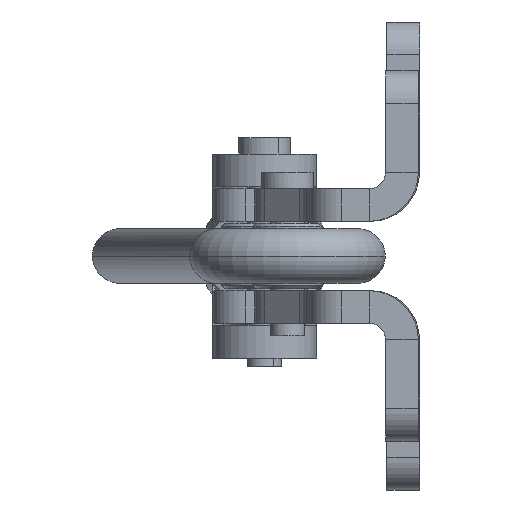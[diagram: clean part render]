
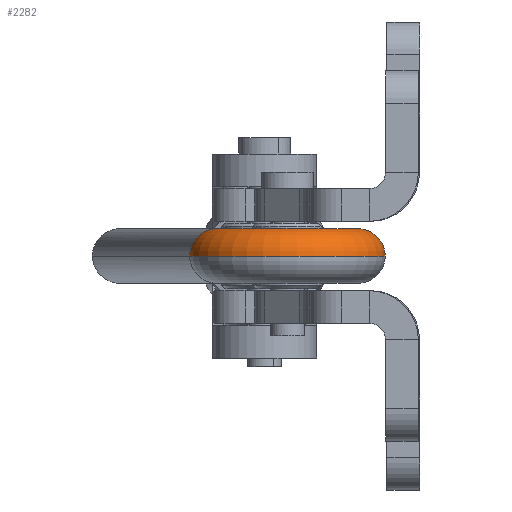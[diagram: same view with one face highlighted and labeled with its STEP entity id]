
A CAD part, left-side view. The second image highlights one B-rep face of the part: STEP entity #2282.
In plain terms, the highlighted toroidal (fillet/blend) face has major radius 6.5 mm and minor radius 2.5 mm.
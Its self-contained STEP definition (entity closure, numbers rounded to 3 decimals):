
#569 = ORIENTED_EDGE ( 'NONE', *, *, #2204, .F. ) ;
#570 = ORIENTED_EDGE ( 'NONE', *, *, #2203, .T. ) ;
#571 = ORIENTED_EDGE ( 'NONE', *, *, #2205, .T. ) ;
#572 = ORIENTED_EDGE ( 'NONE', *, *, #2206, .F. ) ;
#1177 = EDGE_LOOP ( 'NONE', ( #569, #570, #571, #572 ) ) ;
#1345 = VERTEX_POINT ( 'NONE', #3086 ) ;
#1346 = VERTEX_POINT ( 'NONE', #3087 ) ;
#1349 = VERTEX_POINT ( 'NONE', #3090 ) ;
#1350 = VERTEX_POINT ( 'NONE', #3091 ) ;
#2203 = EDGE_CURVE ( 'NONE', #1346, #1349, #6188, .T. ) ;
#2204 = EDGE_CURVE ( 'NONE', #1346, #1345, #6177, .T. ) ;
#2205 = EDGE_CURVE ( 'NONE', #1349, #1350, #6189, .T. ) ;
#2206 = EDGE_CURVE ( 'NONE', #1345, #1350, #6193, .T. ) ;
#2282 = ADVANCED_FACE ( 'NONE', ( #7708 ), #6249, .T. ) ;
#3086 = CARTESIAN_POINT ( 'NONE',  ( -31.879, 162.169, 0. ) ) ;
#3087 = CARTESIAN_POINT ( 'NONE',  ( -27.097, 163.631, 0. ) ) ;
#3090 = CARTESIAN_POINT ( 'NONE',  ( -44.311, 158.369, 0. ) ) ;
#3091 = CARTESIAN_POINT ( 'NONE',  ( -39.529, 159.831, 0. ) ) ;
#6177 = CIRCLE ( 'NONE', #6192, 2.5 ) ;
#6188 = CIRCLE ( 'NONE', #6190, 9. ) ;
#6189 = CIRCLE ( 'NONE', #6194, 2.5 ) ;
#6190 = AXIS2_PLACEMENT_3D ( 'NONE', #7387, #7388, #7389 ) ;
#6192 = AXIS2_PLACEMENT_3D ( 'NONE', #7390, #7391, #7392 ) ;
#6193 = CIRCLE ( 'NONE', #6196, 4. ) ;
#6194 = AXIS2_PLACEMENT_3D ( 'NONE', #7393, #7394, #7395 ) ;
#6196 = AXIS2_PLACEMENT_3D ( 'NONE', #7396, #7397, #7398 ) ;
#6249 = TOROIDAL_SURFACE ( 'NONE', #6293, 6.5, 2.5 ) ;
#6293 = AXIS2_PLACEMENT_3D ( 'NONE', #7709, #7705, #7712 ) ;
#7387 = CARTESIAN_POINT ( 'NONE',  ( -35.704, 161., 0. ) ) ;
#7388 = DIRECTION ( 'NONE',  ( 0., 0., 1. ) ) ;
#7389 = DIRECTION ( 'NONE',  ( 1., 0., 0. ) ) ;
#7390 = CARTESIAN_POINT ( 'NONE',  ( -29.488, 162.9, 0. ) ) ;
#7391 = DIRECTION ( 'NONE',  ( 0.292, -0.956, 0. ) ) ;
#7392 = DIRECTION ( 'NONE',  ( -0.956, -0.292, 0. ) ) ;
#7393 = CARTESIAN_POINT ( 'NONE',  ( -41.92, 159.1, 0. ) ) ;
#7394 = DIRECTION ( 'NONE',  ( -0.292, 0.956, 0. ) ) ;
#7395 = DIRECTION ( 'NONE',  ( 0.956, 0.292, 0. ) ) ;
#7396 = CARTESIAN_POINT ( 'NONE',  ( -35.704, 161., 0. ) ) ;
#7397 = DIRECTION ( 'NONE',  ( 0., 0., 1. ) ) ;
#7398 = DIRECTION ( 'NONE',  ( 1., 0., 0. ) ) ;
#7705 = DIRECTION ( 'NONE',  ( 0., 0., 1. ) ) ;
#7708 = FACE_OUTER_BOUND ( 'NONE', #1177, .T. ) ;
#7709 = CARTESIAN_POINT ( 'NONE',  ( -35.704, 161., 0. ) ) ;
#7712 = DIRECTION ( 'NONE',  ( 1., 0., 0. ) ) ;
